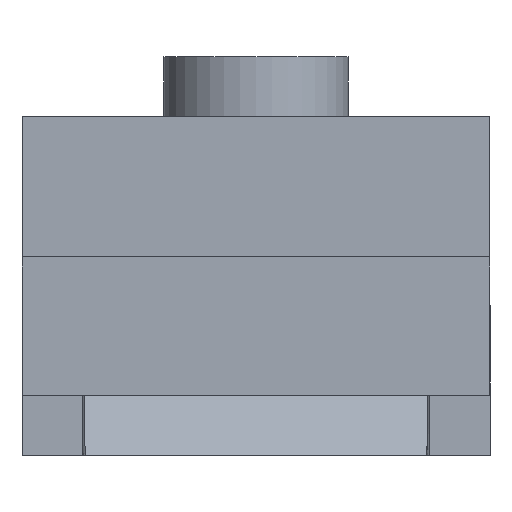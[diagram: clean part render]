
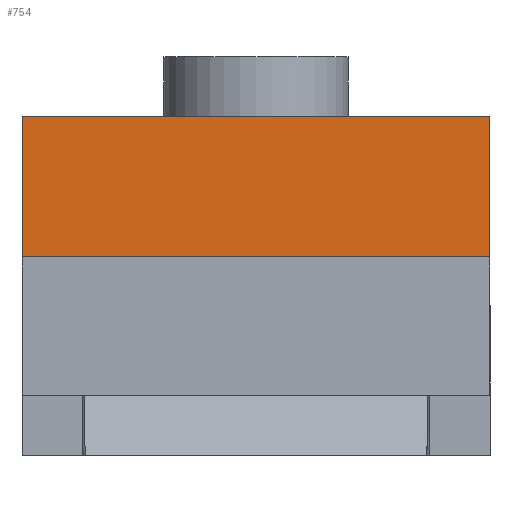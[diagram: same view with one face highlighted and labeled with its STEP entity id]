
A CAD part, left-side view. The second image highlights one B-rep face of the part: STEP entity #754.
In plain terms, the highlighted planar face has unit normal (-1, 0, 0).
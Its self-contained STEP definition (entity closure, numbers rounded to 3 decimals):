
#74=FACE_OUTER_BOUND('',#122,.T.);
#122=EDGE_LOOP('',(#613,#614,#615,#616));
#192=LINE('',#1217,#280);
#193=LINE('',#1219,#281);
#194=LINE('',#1221,#282);
#195=LINE('',#1222,#283);
#280=VECTOR('',#969,10.);
#281=VECTOR('',#970,10.);
#282=VECTOR('',#971,10.);
#283=VECTOR('',#972,10.);
#359=VERTEX_POINT('',#1215);
#360=VERTEX_POINT('',#1216);
#361=VERTEX_POINT('',#1218);
#362=VERTEX_POINT('',#1220);
#448=EDGE_CURVE('',#359,#360,#192,.T.);
#449=EDGE_CURVE('',#360,#361,#193,.T.);
#450=EDGE_CURVE('',#362,#361,#194,.T.);
#451=EDGE_CURVE('',#359,#362,#195,.T.);
#613=ORIENTED_EDGE('',*,*,#448,.T.);
#614=ORIENTED_EDGE('',*,*,#449,.T.);
#615=ORIENTED_EDGE('',*,*,#450,.F.);
#616=ORIENTED_EDGE('',*,*,#451,.F.);
#710=PLANE('',#825);
#754=ADVANCED_FACE('',(#74),#710,.T.);
#825=AXIS2_PLACEMENT_3D('',#1214,#967,#968);
#967=DIRECTION('center_axis',(-1.,0.,0.));
#968=DIRECTION('ref_axis',(0.,-1.,0.));
#969=DIRECTION('',(0.,-1.,0.));
#970=DIRECTION('',(0.,0.,1.));
#971=DIRECTION('',(0.,-1.,0.));
#972=DIRECTION('',(0.,0.,1.));
#1214=CARTESIAN_POINT('Origin',(0.,25.,10.6));
#1215=CARTESIAN_POINT('',(0.,25.,10.6));
#1216=CARTESIAN_POINT('',(0.,0.,10.6));
#1217=CARTESIAN_POINT('',(0.,25.,10.6));
#1218=CARTESIAN_POINT('',(0.,0.,18.1));
#1219=CARTESIAN_POINT('',(0.,0.,10.6));
#1220=CARTESIAN_POINT('',(0.,25.,18.1));
#1221=CARTESIAN_POINT('',(0.,25.,18.1));
#1222=CARTESIAN_POINT('',(0.,25.,10.6));
